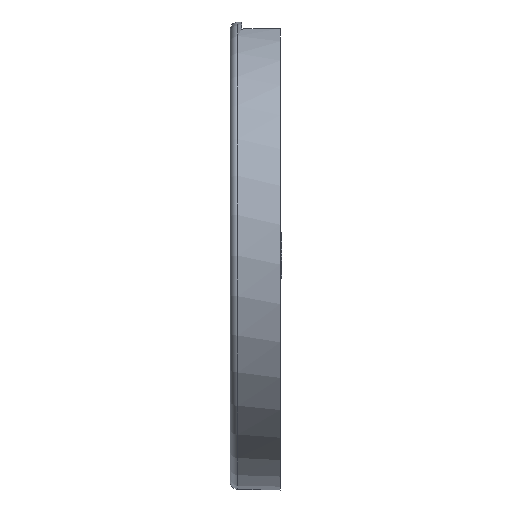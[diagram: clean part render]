
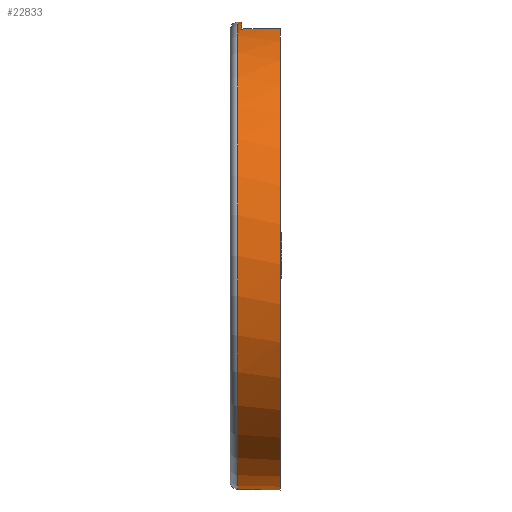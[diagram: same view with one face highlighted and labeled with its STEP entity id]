
A CAD part, left-side view. The second image highlights one B-rep face of the part: STEP entity #22833.
In plain terms, the highlighted conical face has half-angle 1 degrees and reference radius 29.788 mm.
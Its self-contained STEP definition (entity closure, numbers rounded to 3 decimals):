
#623 = DIRECTION ( 'NONE',  ( 0., 0., 1. ) ) ;
#1018 = CARTESIAN_POINT ( 'NONE',  ( 0., 5.717, 29.805 ) ) ;
#1507 = CARTESIAN_POINT ( 'NONE',  ( -7.257, 5.2, 28.918 ) ) ;
#2136 = AXIS2_PLACEMENT_3D ( 'NONE', #4910, #19485, #7031 ) ;
#2532 = CARTESIAN_POINT ( 'NONE',  ( -7.3, 0.3, 28.995 ) ) ;
#3149 = CARTESIAN_POINT ( 'NONE',  ( -7.3, 0.3, 28.995 ) ) ;
#3640 = LINE ( 'NONE', #12618, #14071 ) ;
#3939 = FACE_OUTER_BOUND ( 'NONE', #24739, .T. ) ;
#4403 = VERTEX_POINT ( 'NONE', #1507 ) ;
#4557 = ORIENTED_EDGE ( 'NONE', *, *, #22482, .T. ) ;
#4609 = CARTESIAN_POINT ( 'NONE',  ( -7.286, 1.933, 28.969 ) ) ;
#4866 = VECTOR ( 'NONE', #22480, 1000. ) ;
#4910 = CARTESIAN_POINT ( 'NONE',  ( 0., 0.3, 0. ) ) ;
#5536 = LINE ( 'NONE', #22644, #4866 ) ;
#5590 = B_SPLINE_CURVE_WITH_KNOTS ( 'NONE', 3,
 ( #2532, #4609, #6740, #21324 ),
 .UNSPECIFIED., .F., .F.,
 ( 4, 4 ),
 ( 0., 0.005 ),
 .UNSPECIFIED. ) ;
#6210 = DIRECTION ( 'NONE',  ( 0., 1., 0. ) ) ;
#6211 = CARTESIAN_POINT ( 'NONE',  ( 0., 5.2, 29.814 ) ) ;
#6643 = EDGE_CURVE ( 'NONE', #9522, #14673, #5536, .T. ) ;
#6740 = CARTESIAN_POINT ( 'NONE',  ( -7.271, 3.567, 28.944 ) ) ;
#7031 = DIRECTION ( 'NONE',  ( 0., 0., 1. ) ) ;
#8125 = DIRECTION ( 'NONE',  ( 0., 0., -1. ) ) ;
#9522 = VERTEX_POINT ( 'NONE', #1018 ) ;
#10198 = DIRECTION ( 'NONE',  ( 0., -1., 0. ) ) ;
#11758 = ORIENTED_EDGE ( 'NONE', *, *, #6643, .F. ) ;
#11973 = CARTESIAN_POINT ( 'NONE',  ( 0., 5.717, -29.805 ) ) ;
#12618 = CARTESIAN_POINT ( 'NONE',  ( 0., 6.7, -29.788 ) ) ;
#12679 = AXIS2_PLACEMENT_3D ( 'NONE', #26837, #10198, #8125 ) ;
#13079 = DIRECTION ( 'NONE',  ( 0., -1., 0. ) ) ;
#14071 = VECTOR ( 'NONE', #14704, 1000. ) ;
#14252 = EDGE_CURVE ( 'NONE', #16678, #25760, #3640, .T. ) ;
#14449 = EDGE_CURVE ( 'NONE', #25760, #26490, #16333, .T. ) ;
#14673 = VERTEX_POINT ( 'NONE', #6211 ) ;
#14704 = DIRECTION ( 'NONE',  ( 0., -1., -0.017 ) ) ;
#15279 = ORIENTED_EDGE ( 'NONE', *, *, #25571, .T. ) ;
#16333 = CIRCLE ( 'NONE', #2136, 29.9 ) ;
#16678 = VERTEX_POINT ( 'NONE', #11973 ) ;
#17208 = CARTESIAN_POINT ( 'NONE',  ( 0., 0.3, -29.9 ) ) ;
#17374 = AXIS2_PLACEMENT_3D ( 'NONE', #25576, #13079, #623 ) ;
#18671 = CARTESIAN_POINT ( 'NONE',  ( 0., 5.2, 0. ) ) ;
#19221 = CONICAL_SURFACE ( 'NONE', #12679, 29.788, 0.017 ) ;
#19274 = EDGE_CURVE ( 'NONE', #26490, #4403, #5590, .T. ) ;
#19485 = DIRECTION ( 'NONE',  ( 0., 1., 0. ) ) ;
#20203 = AXIS2_PLACEMENT_3D ( 'NONE', #18671, #6210, #20795 ) ;
#20795 = DIRECTION ( 'NONE',  ( 0., 0., -1. ) ) ;
#20919 = CIRCLE ( 'NONE', #17374, 29.805 ) ;
#21324 = CARTESIAN_POINT ( 'NONE',  ( -7.257, 5.2, 28.918 ) ) ;
#22480 = DIRECTION ( 'NONE',  ( 0., -1., 0.017 ) ) ;
#22482 = EDGE_CURVE ( 'NONE', #9522, #16678, #20919, .T. ) ;
#22644 = CARTESIAN_POINT ( 'NONE',  ( 0., 6.7, 29.788 ) ) ;
#22833 = ADVANCED_FACE ( 'NONE', ( #3939 ), #19221, .T. ) ;
#23156 = ORIENTED_EDGE ( 'NONE', *, *, #19274, .T. ) ;
#24739 = EDGE_LOOP ( 'NONE', ( #11758, #4557, #26755, #25685, #23156, #15279 ) ) ;
#25571 = EDGE_CURVE ( 'NONE', #4403, #14673, #26593, .T. ) ;
#25576 = CARTESIAN_POINT ( 'NONE',  ( 0., 5.717, 0. ) ) ;
#25685 = ORIENTED_EDGE ( 'NONE', *, *, #14449, .T. ) ;
#25760 = VERTEX_POINT ( 'NONE', #17208 ) ;
#26490 = VERTEX_POINT ( 'NONE', #3149 ) ;
#26593 = CIRCLE ( 'NONE', #20203, 29.814 ) ;
#26755 = ORIENTED_EDGE ( 'NONE', *, *, #14252, .T. ) ;
#26837 = CARTESIAN_POINT ( 'NONE',  ( 0., 6.7, 0. ) ) ;
